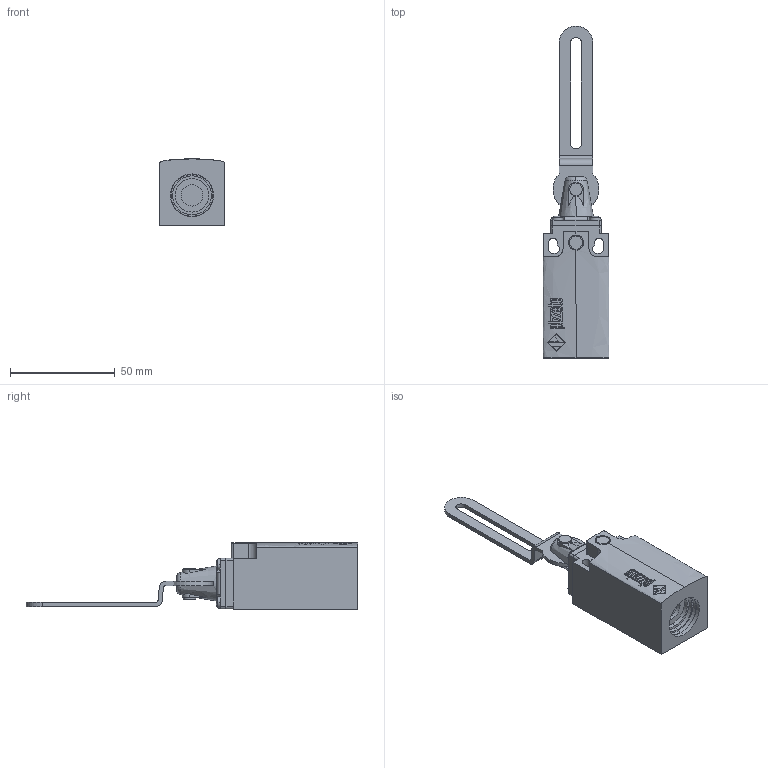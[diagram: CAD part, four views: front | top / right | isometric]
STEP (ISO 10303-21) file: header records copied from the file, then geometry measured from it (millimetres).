
FILE_DESCRIPTION (( 'STEP AP203' ), '1' );
FILE_NAME ('ZF_STEP_FR_xC2.STEP', '2024-02-26T08:49:04', ( '' ), ( '' ), 'SwSTEP 2.0', 'SolidWorks 2023', '' );
FILE_SCHEMA (( 'CONFIG_CONTROL_DESIGN' ));
Length unit declared in the file: millimetre
Products named in the file (6): ZF_STEP_FR_xC2; Pizzato_LEC2; Pizzato_Custodia_FR_3dweb; ZF_STEP_VF_TEC2; Pizzato_Supporto_TECx
Assembly tree (5 placements, depth 3):
  ZF_STEP_FR_xC2
    Pizzato_Custodia_FR_3dweb
      Pizzato_Custodia_FR_3dweb
    ZF_STEP_VF_TEC2
      Pizzato_Supporto_TECx
      Pizzato_LEC2
Bounding box: 31.2 x 158.4 x 31.6 mm (x, y, z)
Volume: 62020.7 mm3; surface area: 18006.1 mm2
Topology: 3 solids, 3 shells, 450 faces, 1190 edges, 789 vertices
Faces by surface type: plane 255, bspline 114, cylinder 68, sphere 8, torus 3, cone 2
Entity records: 18562 total; most frequent: CARTESIAN_POINT 7601, ORIENTED_EDGE 2380, DIRECTION 1716, EDGE_CURVE 1190, VERTEX_POINT 789, LINE 724, VECTOR 724, EDGE_LOOP 503
